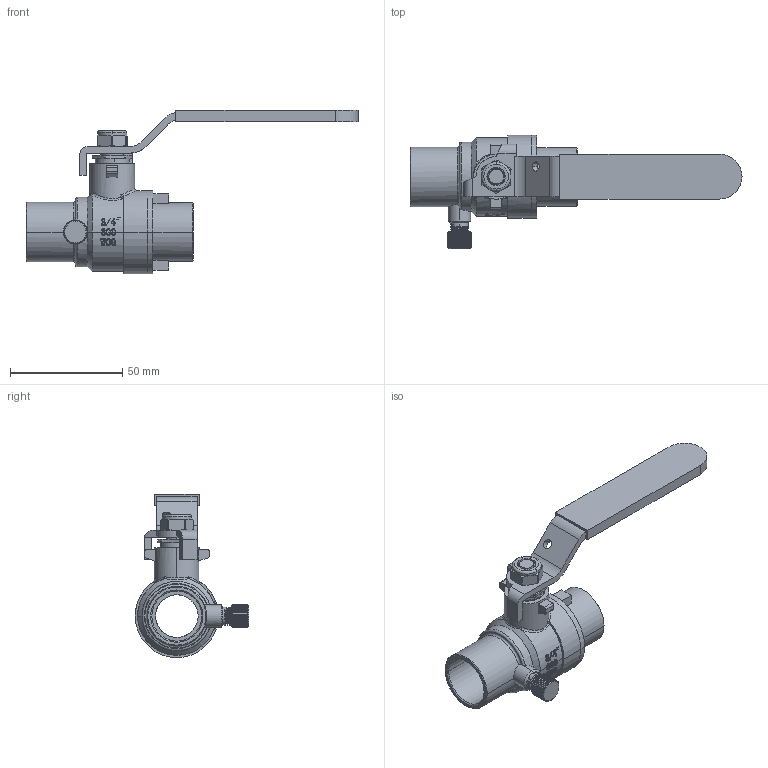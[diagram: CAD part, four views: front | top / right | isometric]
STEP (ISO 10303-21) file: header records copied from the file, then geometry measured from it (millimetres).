
FILE_DESCRIPTION(('Open CASCADE Model'),'2;1');
FILE_NAME('Open CASCADE Shape Model','2021-12-14T10:49:37',('Author'),( 'Open CASCADE'),'Open CASCADE STEP processor 7.3','Open CASCADE 7.3' ,'Unknown');
FILE_SCHEMA(('AUTOMOTIVE_DESIGN { 1 0 10303 214 1 1 1 1 }'));
Length unit declared in the file: millimetre
Products named in the file (15): Open CASCADE STEP translator 7.3 1; Open CASCADE STEP translator 7.3 1.1; Open CASCADE STEP translator 7.3 1.2; Open CASCADE STEP translator 7.3 1.3; Open CASCADE STEP translator 7.3 1.4; Open CASCADE STEP translator 7.3 1.5; Open CASCADE STEP translator 7.3 1.6; Open CASCADE STEP translator 7.3 1.7; Open CASCADE STEP translator 7.3 1.8; Open CASCADE STEP translator 7.3 1.9; Open CASCADE STEP translator 7.3 1.10; Open CASCADE STEP translator 7.3 1.11; Open CASCADE STEP translator 7.3 1.12; Open CASCADE STEP translator 7.3 1.13; Open CASCADE STEP translator 7.3 1.14
Assembly tree (14 placements, depth 2):
  Open CASCADE STEP translator 7.3 1
    Open CASCADE STEP translator 7.3 1.1
    Open CASCADE STEP translator 7.3 1.2
    Open CASCADE STEP translator 7.3 1.3
    Open CASCADE STEP translator 7.3 1.4
    Open CASCADE STEP translator 7.3 1.5
    Open CASCADE STEP translator 7.3 1.6
    Open CASCADE STEP translator 7.3 1.7
    Open CASCADE STEP translator 7.3 1.8
    Open CASCADE STEP translator 7.3 1.9
    Open CASCADE STEP translator 7.3 1.10
    Open CASCADE STEP translator 7.3 1.11
    Open CASCADE STEP translator 7.3 1.12
    Open CASCADE STEP translator 7.3 1.13
    Open CASCADE STEP translator 7.3 1.14
Bounding box: 147.9 x 50.5 x 72.71 mm (x, y, z)
Volume: 45850.3 mm3; surface area: 37393.1 mm2
Topology: 14 solids, 14 shells, 944 faces, 2594 edges, 1700 vertices
Faces by surface type: cylinder 424, plane 250, bspline 160, cone 76, torus 28, sphere 6
Entity records: 145124 total; most frequent: CARTESIAN_POINT 99982, DIRECTION 6357, ORIENTED_EDGE 5188, PCURVE 5188, DEFINITIONAL_REPRESENTATION 5188, LINE 3342, VECTOR 3342, B_SPLINE_CURVE_WITH_KNOTS 3265
